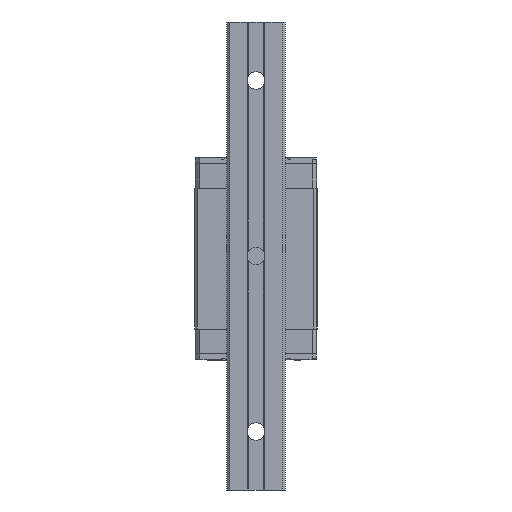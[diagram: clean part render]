
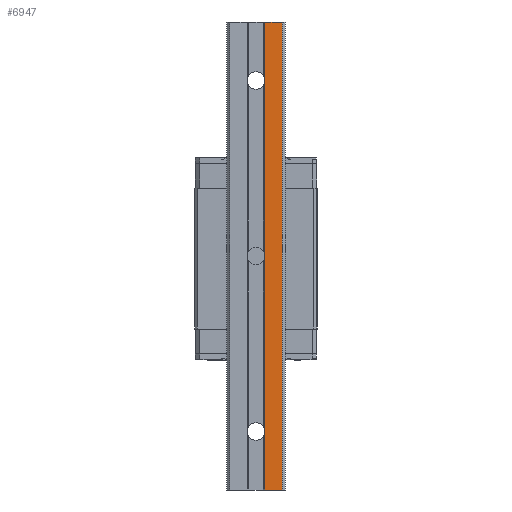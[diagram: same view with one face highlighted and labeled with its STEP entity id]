
A CAD part, front view. The second image highlights one B-rep face of the part: STEP entity #6947.
In plain terms, the highlighted planar face has unit normal (0, -1, 0).
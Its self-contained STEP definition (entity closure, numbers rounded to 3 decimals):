
#6443=PLANE('',#21393);
#6947=ADVANCED_FACE('',(#7935),#6443,.T.);
#7935=FACE_OUTER_BOUND('',#8724,.T.);
#8724=EDGE_LOOP('',(#12729,#12730,#12731,#12732,#12733,#12734,#12735));
#9663=LINE('',#26151,#11068);
#9691=LINE('',#26235,#11096);
#9708=LINE('',#26279,#11113);
#9709=LINE('',#26281,#11114);
#9710=LINE('',#26284,#11115);
#9711=LINE('',#26286,#11116);
#9712=LINE('',#26287,#11117);
#11068=VECTOR('',#22454,1.);
#11096=VECTOR('',#22514,1.);
#11113=VECTOR('',#22563,1.);
#11114=VECTOR('',#22566,1.);
#11115=VECTOR('',#22567,1.);
#11116=VECTOR('',#22568,1.);
#11117=VECTOR('',#22569,1.);
#12729=ORIENTED_EDGE('',*,*,#18773,.T.);
#12730=ORIENTED_EDGE('',*,*,#18774,.T.);
#12731=ORIENTED_EDGE('',*,*,#18775,.T.);
#12732=ORIENTED_EDGE('',*,*,#18708,.F.);
#12733=ORIENTED_EDGE('',*,*,#18772,.F.);
#12734=ORIENTED_EDGE('',*,*,#18750,.T.);
#12735=ORIENTED_EDGE('',*,*,#18776,.T.);
#17193=VERTEX_POINT('',#26150);
#17194=VERTEX_POINT('',#26152);
#17233=VERTEX_POINT('',#26234);
#17234=VERTEX_POINT('',#26236);
#17245=VERTEX_POINT('',#26282);
#17246=VERTEX_POINT('',#26283);
#17247=VERTEX_POINT('',#26285);
#18708=EDGE_CURVE('',#17193,#17194,#9663,.T.);
#18750=EDGE_CURVE('',#17234,#17233,#9691,.T.);
#18772=EDGE_CURVE('',#17234,#17193,#9708,.T.);
#18773=EDGE_CURVE('',#17245,#17246,#9709,.T.);
#18774=EDGE_CURVE('',#17246,#17247,#9710,.T.);
#18775=EDGE_CURVE('',#17247,#17194,#9711,.T.);
#18776=EDGE_CURVE('',#17233,#17245,#9712,.T.);
#21393=AXIS2_PLACEMENT_3D('',#26288,#22570,#22571);
#22454=DIRECTION('',(-1.,0.,0.));
#22514=DIRECTION('',(-1.,0.,0.));
#22563=DIRECTION('',(0.,0.,-1.));
#22566=DIRECTION('',(0.,0.,-1.));
#22567=DIRECTION('',(0.,0.,-1.));
#22568=DIRECTION('',(0.,0.,-1.));
#22569=DIRECTION('',(0.,0.,-1.));
#22570=DIRECTION('',(0.,-1.,0.));
#22571=DIRECTION('',(1.,0.,0.));
#26150=CARTESIAN_POINT('',(9.,-15.5,-60.));
#26151=CARTESIAN_POINT('',(9.,-15.5,-60.));
#26152=CARTESIAN_POINT('',(3.,-15.5,-60.));
#26234=CARTESIAN_POINT('',(3.,-15.5,100.));
#26235=CARTESIAN_POINT('',(9.,-15.5,100.));
#26236=CARTESIAN_POINT('',(9.,-15.5,100.));
#26279=CARTESIAN_POINT('',(9.,-15.5,100.));
#26281=CARTESIAN_POINT('',(3.,-15.5,80.));
#26282=CARTESIAN_POINT('',(3.,-15.5,80.));
#26283=CARTESIAN_POINT('',(3.,-15.5,20.));
#26284=CARTESIAN_POINT('',(3.,-15.5,20.));
#26285=CARTESIAN_POINT('',(3.,-15.5,-40.));
#26286=CARTESIAN_POINT('',(3.,-15.5,-40.));
#26287=CARTESIAN_POINT('',(3.,-15.5,100.));
#26288=CARTESIAN_POINT('',(3.,-15.5,-30.));
